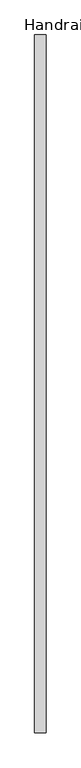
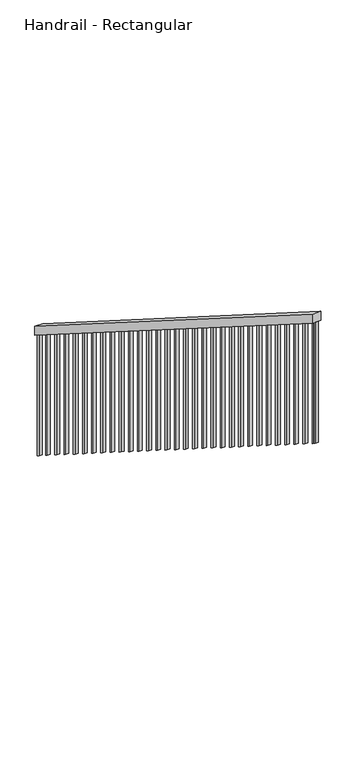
"""IFC4 building model written with IfcOpenShell, lengths in millimetres: railing geometry, Handrail - Rectangular."""

from ifc_helpers import new_model, si_unit, frame, origin, place, context, project, spatial, polyline, outline, extrude, source, transform, mapped, element, save


def handrail_rectangular_4be4dc4f(model_context):
    return source(origin(), model_context, "Body", "SweptSolid", [
        extrude(outline(polyline([(29625.2325698, 737.4193548), (29625.2325698, 677.2854912), (26551.8305304, 2624.0725879), (26551.8305304, 2684.2064516), (29625.2325698, 737.4193548)])), frame((-10007.6851755, 0.0, 0.0), z_axis=(1.0, 0.0, 0.0), x_axis=(0.0, 1.0, 0.0)), (0.0, 0.0, 1.0), 50.8),
        extrude(outline(polyline([(26567.7075698, 2614.0155843), (26586.7575698, 2601.9487301), (26586.7575698, 1785.4263775), (26567.7075698, 1797.4932316), (26567.7075698, 2614.0155843)])), frame((-9991.8101755, 0.0, 0.0), z_axis=(1.0, 0.0, 0.0), x_axis=(0.0, 1.0, 0.0)), (0.0, 0.0, 1.0), 19.05),
        extrude(outline(polyline([(26669.3075698, 2549.6590287), (26688.3575698, 2537.5921746), (26688.3575698, 1721.0698219), (26669.3075698, 1733.1366761), (26669.3075698, 2549.6590287)])), frame((-9991.8101755, 0.0, 0.0), z_axis=(1.0, 0.0, 0.0), x_axis=(0.0, 1.0, 0.0)), (0.0, 0.0, 1.0), 19.05),
        extrude(outline(polyline([(26770.9075698, 2485.3024732), (26789.9575698, 2473.2356191), (26789.9575698, 1656.7132664), (26770.9075698, 1668.7801206), (26770.9075698, 2485.3024732)])), frame((-9991.8101755, 0.0, 0.0), z_axis=(1.0, 0.0, 0.0), x_axis=(0.0, 1.0, 0.0)), (0.0, 0.0, 1.0), 19.05),
        extrude(outline(polyline([(26872.5075698, 2420.9459177), (26891.5575698, 2408.8790635), (26891.5575698, 1592.3567109), (26872.5075698, 1604.423565), (26872.5075698, 2420.9459177)])), frame((-9991.8101755, 0.0, 0.0), z_axis=(1.0, 0.0, 0.0), x_axis=(0.0, 1.0, 0.0)), (0.0, 0.0, 1.0), 19.05),
        extrude(outline(polyline([(26974.1075698, 2356.5893621), (26993.1575698, 2344.522508), (26993.1575698, 1528.0001553), (26974.1075698, 1540.0670095), (26974.1075698, 2356.5893621)])), frame((-9991.8101755, 0.0, 0.0), z_axis=(1.0, 0.0, 0.0), x_axis=(0.0, 1.0, 0.0)), (0.0, 0.0, 1.0), 19.05),
        extrude(outline(polyline([(27075.7075698, 2292.2328066), (27094.7575698, 2280.1659524), (27094.7575698, 1463.6435998), (27075.7075698, 1475.710454), (27075.7075698, 2292.2328066)])), frame((-9991.8101755, 0.0, 0.0), z_axis=(1.0, 0.0, 0.0), x_axis=(0.0, 1.0, 0.0)), (0.0, 0.0, 1.0), 19.05),
        extrude(outline(polyline([(27177.3075698, 2227.8762511), (27196.3575698, 2215.8093969), (27196.3575698, 1399.2870443), (27177.3075698, 1411.3538984), (27177.3075698, 2227.8762511)])), frame((-9991.8101755, 0.0, 0.0), z_axis=(1.0, 0.0, 0.0), x_axis=(0.0, 1.0, 0.0)), (0.0, 0.0, 1.0), 19.05),
        extrude(outline(polyline([(27278.9075698, 2163.5196955), (27297.9575698, 2151.4528414), (27297.9575698, 1334.9304887), (27278.9075698, 1346.9973429), (27278.9075698, 2163.5196955)])), frame((-9991.8101755, 0.0, 0.0), z_axis=(1.0, 0.0, 0.0), x_axis=(0.0, 1.0, 0.0)), (0.0, 0.0, 1.0), 19.05),
        extrude(outline(polyline([(27380.5075698, 2099.16314), (27399.5575698, 2087.0962858), (27399.5575698, 1270.5739332), (27380.5075698, 1282.6407874), (27380.5075698, 2099.16314)])), frame((-9991.8101755, 0.0, 0.0), z_axis=(1.0, 0.0, 0.0), x_axis=(0.0, 1.0, 0.0)), (0.0, 0.0, 1.0), 19.05),
        extrude(outline(polyline([(27482.1075698, 2034.8065845), (27501.1575698, 2022.7397303), (27501.1575698, 1206.2173777), (27482.1075698, 1218.2842318), (27482.1075698, 2034.8065845)])), frame((-9991.8101755, 0.0, 0.0), z_axis=(1.0, 0.0, 0.0), x_axis=(0.0, 1.0, 0.0)), (0.0, 0.0, 1.0), 19.05),
        extrude(outline(polyline([(27583.7075698, 1970.4500289), (27602.7575698, 1958.3831748), (27602.7575698, 1141.8608221), (27583.7075698, 1153.9276763), (27583.7075698, 1970.4500289)])), frame((-9991.8101755, 0.0, 0.0), z_axis=(1.0, 0.0, 0.0), x_axis=(0.0, 1.0, 0.0)), (0.0, 0.0, 1.0), 19.05),
        extrude(outline(polyline([(27685.3075698, 1906.0934734), (27704.3575698, 1894.0266192), (27704.3575698, 1077.5042666), (27685.3075698, 1089.5711207), (27685.3075698, 1906.0934734)])), frame((-9991.8101755, 0.0, 0.0), z_axis=(1.0, 0.0, 0.0), x_axis=(0.0, 1.0, 0.0)), (0.0, 0.0, 1.0), 19.05),
        extrude(outline(polyline([(27786.9075698, 1841.7369179), (27805.9575698, 1829.6700637), (27805.9575698, 1013.1477111), (27786.9075698, 1025.2145652), (27786.9075698, 1841.7369179)])), frame((-9991.8101755, 0.0, 0.0), z_axis=(1.0, 0.0, 0.0), x_axis=(0.0, 1.0, 0.0)), (0.0, 0.0, 1.0), 19.05),
        extrude(outline(polyline([(27888.5075698, 1777.3803623), (27907.5575698, 1765.3135082), (27907.5575698, 948.7911555), (27888.5075698, 960.8580097), (27888.5075698, 1777.3803623)])), frame((-9991.8101755, 0.0, 0.0), z_axis=(1.0, 0.0, 0.0), x_axis=(0.0, 1.0, 0.0)), (0.0, 0.0, 1.0), 19.05),
        extrude(outline(polyline([(27990.1075698, 1713.0238068), (28009.1575698, 1700.9569526), (28009.1575698, 884.4346), (27990.1075698, 896.5014541), (27990.1075698, 1713.0238068)])), frame((-9991.8101755, 0.0, 0.0), z_axis=(1.0, 0.0, 0.0), x_axis=(0.0, 1.0, 0.0)), (0.0, 0.0, 1.0), 19.05),
        extrude(outline(polyline([(28091.7075698, 1648.6672513), (28110.7575698, 1636.6003971), (28110.7575698, 820.0780444), (28091.7075698, 832.1448986), (28091.7075698, 1648.6672513)])), frame((-9991.8101755, 0.0, 0.0), z_axis=(1.0, 0.0, 0.0), x_axis=(0.0, 1.0, 0.0)), (0.0, 0.0, 1.0), 19.05),
        extrude(outline(polyline([(28193.3075698, 1584.3106957), (28212.3575698, 1572.2438416), (28212.3575698, 755.7214889), (28193.3075698, 767.7883431), (28193.3075698, 1584.3106957)])), frame((-9991.8101755, 0.0, 0.0), z_axis=(1.0, 0.0, 0.0), x_axis=(0.0, 1.0, 0.0)), (0.0, 0.0, 1.0), 19.05),
        extrude(outline(polyline([(28294.9075698, 1519.9541402), (28313.9575698, 1507.887286), (28313.9575698, 691.3649334), (28294.9075698, 703.4317875), (28294.9075698, 1519.9541402)])), frame((-9991.8101755, 0.0, 0.0), z_axis=(1.0, 0.0, 0.0), x_axis=(0.0, 1.0, 0.0)), (0.0, 0.0, 1.0), 19.05),
        extrude(outline(polyline([(28396.5075698, 1455.5975847), (28415.5575698, 1443.5307305), (28415.5575698, 627.0083778), (28396.5075698, 639.075232), (28396.5075698, 1455.5975847)])), frame((-9991.8101755, 0.0, 0.0), z_axis=(1.0, 0.0, 0.0), x_axis=(0.0, 1.0, 0.0)), (0.0, 0.0, 1.0), 19.05),
        extrude(outline(polyline([(28498.1075698, 1391.2410291), (28517.1575698, 1379.174175), (28517.1575698, 562.6518223), (28498.1075698, 574.7186765), (28498.1075698, 1391.2410291)])), frame((-9991.8101755, 0.0, 0.0), z_axis=(1.0, 0.0, 0.0), x_axis=(0.0, 1.0, 0.0)), (0.0, 0.0, 1.0), 19.05),
        extrude(outline(polyline([(28599.7075698, 1326.8844736), (28618.7575698, 1314.8176194), (28618.7575698, 498.2952668), (28599.7075698, 510.3621209), (28599.7075698, 1326.8844736)])), frame((-9991.8101755, 0.0, 0.0), z_axis=(1.0, 0.0, 0.0), x_axis=(0.0, 1.0, 0.0)), (0.0, 0.0, 1.0), 19.05),
        extrude(outline(polyline([(28701.3075698, 1262.5279181), (28720.3575698, 1250.4610639), (28720.3575698, 433.9387112), (28701.3075698, 446.0055654), (28701.3075698, 1262.5279181)])), frame((-9991.8101755, 0.0, 0.0), z_axis=(1.0, 0.0, 0.0), x_axis=(0.0, 1.0, 0.0)), (0.0, 0.0, 1.0), 19.05),
        extrude(outline(polyline([(28802.9075698, 1198.1713625), (28821.9575698, 1186.1045084), (28821.9575698, 369.5821557), (28802.9075698, 381.6490099), (28802.9075698, 1198.1713625)])), frame((-9991.8101755, 0.0, 0.0), z_axis=(1.0, 0.0, 0.0), x_axis=(0.0, 1.0, 0.0)), (0.0, 0.0, 1.0), 19.05),
        extrude(outline(polyline([(28904.5075698, 1133.814807), (28923.5575698, 1121.7479528), (28923.5575698, 305.2256002), (28904.5075698, 317.2924543), (28904.5075698, 1133.814807)])), frame((-9991.8101755, 0.0, 0.0), z_axis=(1.0, 0.0, 0.0), x_axis=(0.0, 1.0, 0.0)), (0.0, 0.0, 1.0), 19.05),
        extrude(outline(polyline([(29006.1075698, 1069.4582515), (29025.1575698, 1057.3913973), (29025.1575698, 240.8690446), (29006.1075698, 252.9358988), (29006.1075698, 1069.4582515)])), frame((-9991.8101755, 0.0, 0.0), z_axis=(1.0, 0.0, 0.0), x_axis=(0.0, 1.0, 0.0)), (0.0, 0.0, 1.0), 19.05),
        extrude(outline(polyline([(29107.7075698, 1005.1016959), (29126.7575698, 993.0348418), (29126.7575698, 176.5124891), (29107.7075698, 188.5793433), (29107.7075698, 1005.1016959)])), frame((-9991.8101755, 0.0, 0.0), z_axis=(1.0, 0.0, 0.0), x_axis=(0.0, 1.0, 0.0)), (0.0, 0.0, 1.0), 19.05),
        extrude(outline(polyline([(29209.3075698, 940.7451404), (29228.3575698, 928.6782862), (29228.3575698, 112.1559336), (29209.3075698, 124.2227877), (29209.3075698, 940.7451404)])), frame((-9991.8101755, 0.0, 0.0), z_axis=(1.0, 0.0, 0.0), x_axis=(0.0, 1.0, 0.0)), (0.0, 0.0, 1.0), 19.05),
        extrude(outline(polyline([(29310.9075698, 876.3885849), (29329.9575698, 864.3217307), (29329.9575698, 47.799378), (29310.9075698, 59.8662322), (29310.9075698, 876.3885849)])), frame((-9991.8101755, 0.0, 0.0), z_axis=(1.0, 0.0, 0.0), x_axis=(0.0, 1.0, 0.0)), (0.0, 0.0, 1.0), 19.05),
        extrude(outline(polyline([(29412.5075698, 812.0320293), (29431.5575698, 799.9651752), (29431.5575698, -16.5571775), (29412.5075698, -4.4903233), (29412.5075698, 812.0320293)])), frame((-9991.8101755, 0.0, 0.0), z_axis=(1.0, 0.0, 0.0), x_axis=(0.0, 1.0, 0.0)), (0.0, 0.0, 1.0), 19.05),
        extrude(outline(polyline([(29514.1075698, 747.6754738), (29533.1575698, 735.6086196), (29533.1575698, -80.913733), (29514.1075698, -68.8468789), (29514.1075698, 747.6754738)])), frame((-9991.8101755, 0.0, 0.0), z_axis=(1.0, 0.0, 0.0), x_axis=(0.0, 1.0, 0.0)), (0.0, 0.0, 1.0), 19.05),
        extrude(outline(polyline([(26551.8305304, 2624.0725879), (26570.8805304, 2612.0057338), (26570.8805304, 1795.4833811), (26551.8305304, 1807.5502353), (26551.8305304, 2624.0725879)])), frame((-9991.8101755, 0.0, 0.0), z_axis=(1.0, 0.0, 0.0), x_axis=(0.0, 1.0, 0.0)), (0.0, 0.0, 1.0), 19.05),
        extrude(outline(polyline([(29606.1825698, 689.3523453), (29625.2325698, 677.2854912), (29625.2325698, -139.2368615), (29606.1825698, -127.1700073), (29606.1825698, 689.3523453)])), frame((-9991.8101755, 0.0, 0.0), z_axis=(1.0, 0.0, 0.0), x_axis=(0.0, 1.0, 0.0)), (0.0, 0.0, 1.0), 19.05),
    ])


if __name__ == "__main__":
    model = new_model("IFC4")
    model_context = context("Model", 3, world=origin())
    ifc_project = project(units=[si_unit("LENGTHUNIT", "METRE", prefix="MILLI")], contexts=[model_context])
    site = spatial("IfcSite", under=ifc_project)
    building = spatial("IfcBuilding", under=site)
    placement = place(None, origin())
    handrail_rectangular_shape = handrail_rectangular_4be4dc4f(model_context)
    element("IfcRailing", 1, ObjectType="Handrail - Rectangular", at=placement, inside=building, context=model_context, shape_type="MappedRepresentation", body=[
        mapped(handrail_rectangular_shape, transform((0.0, 0.0, 0.0), x_axis=(1.0, 0.0, 0.0), y_axis=(0.0, 1.0, 0.0), z_axis=(0.0, 0.0, 1.0))),
    ])
    save(model, "model.ifc")
